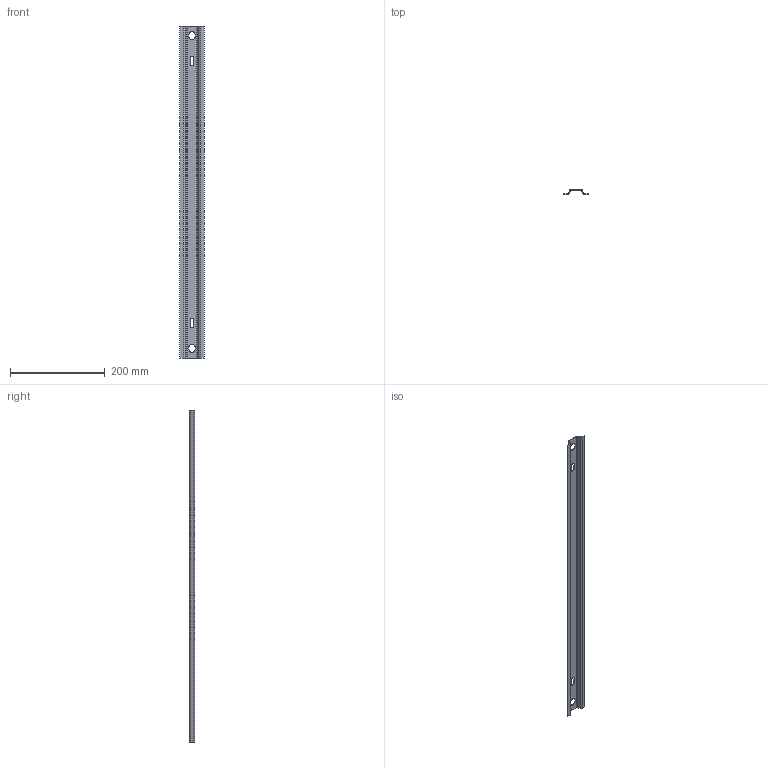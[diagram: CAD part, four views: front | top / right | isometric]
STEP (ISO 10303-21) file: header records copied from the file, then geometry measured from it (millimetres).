
FILE_DESCRIPTION (( 'STEP AP203' ), '1' );
FILE_NAME ('TB 600.STEP', '2024-09-05T04:24:44', ( '' ), ( '' ), 'SwSTEP 2.0', 'SolidWorks 2023', '' );
FILE_SCHEMA (( 'CONFIG_CONTROL_DESIGN' ));
Length unit declared in the file: millimetre
Products named in the file (1): TB 600
Bounding box: 52 x 11 x 700 mm (x, y, z)
Volume: 52281.5 mm3; surface area: 89203.2 mm2
Topology: 1 solids, 1 shells, 54 faces, 124 edges, 72 vertices
Faces by surface type: plane 38, cylinder 16
Entity records: 1577 total; most frequent: DIRECTION 266, CARTESIAN_POINT 251, ORIENTED_EDGE 248, EDGE_CURVE 124, VECTOR 92, LINE 92, AXIS2_PLACEMENT_3D 87, VERTEX_POINT 72
